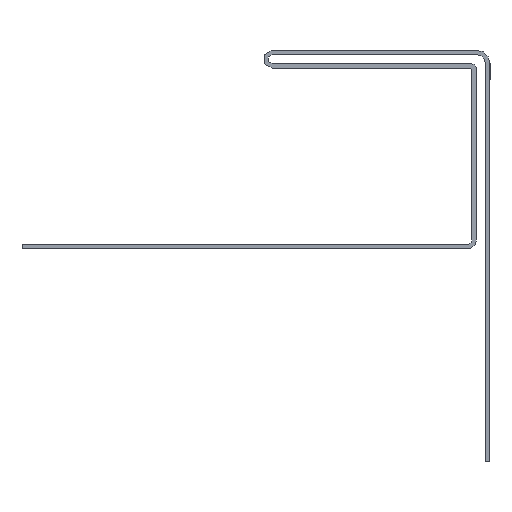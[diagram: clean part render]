
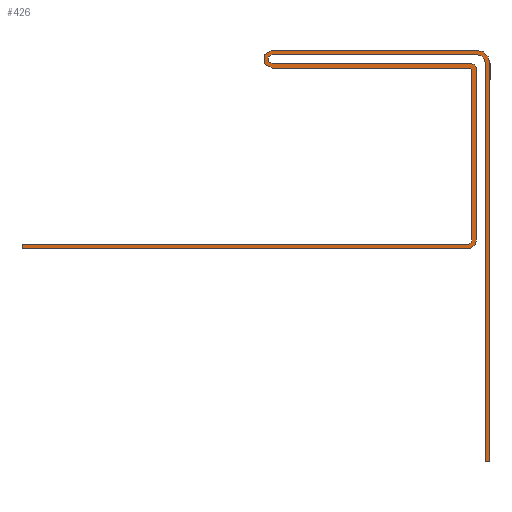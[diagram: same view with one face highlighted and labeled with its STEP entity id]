
A CAD part, left-side view. The second image highlights one B-rep face of the part: STEP entity #426.
In plain terms, the highlighted planar face has unit normal (-1, 0, 0).
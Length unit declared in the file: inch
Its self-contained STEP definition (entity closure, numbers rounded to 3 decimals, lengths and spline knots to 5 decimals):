
#28=PLANE('',#484);
#50=FACE_OUTER_BOUND('',#72,.T.);
#72=EDGE_LOOP('',(#377,#378,#379,#380,#381,#382,#383,#384,#385,#386,#387,
#388,#389,#390,#391,#392,#393,#394,#395,#396));
#75=LINE('',#619,#119);
#78=LINE('',#625,#122);
#81=LINE('',#631,#125);
#85=LINE('',#643,#129);
#89=LINE('',#655,#133);
#93=LINE('',#667,#137);
#97=LINE('',#679,#141);
#100=LINE('',#685,#144);
#103=LINE('',#691,#147);
#107=LINE('',#703,#151);
#111=LINE('',#715,#155);
#115=LINE('',#726,#159);
#119=VECTOR('',#497,0.3937);
#122=VECTOR('',#502,0.3937);
#125=VECTOR('',#507,0.3937);
#129=VECTOR('',#519,0.3937);
#133=VECTOR('',#531,0.3937);
#137=VECTOR('',#543,0.3937);
#141=VECTOR('',#555,0.3937);
#144=VECTOR('',#560,0.3937);
#147=VECTOR('',#565,0.3937);
#151=VECTOR('',#577,0.3937);
#155=VECTOR('',#589,0.3937);
#159=VECTOR('',#601,0.3937);
#161=CIRCLE('',#448,0.01937);
#163=CIRCLE('',#454,0.03937);
#165=CIRCLE('',#458,0.02);
#167=CIRCLE('',#462,0.02);
#169=CIRCLE('',#466,0.04);
#171=CIRCLE('',#472,0.06);
#173=CIRCLE('',#476,0.04);
#175=CIRCLE('',#480,0.01);
#177=VERTEX_POINT('',#609);
#178=VERTEX_POINT('',#610);
#181=VERTEX_POINT('',#618);
#183=VERTEX_POINT('',#624);
#185=VERTEX_POINT('',#630);
#187=VERTEX_POINT('',#636);
#189=VERTEX_POINT('',#642);
#191=VERTEX_POINT('',#648);
#193=VERTEX_POINT('',#654);
#195=VERTEX_POINT('',#660);
#197=VERTEX_POINT('',#666);
#199=VERTEX_POINT('',#672);
#201=VERTEX_POINT('',#678);
#203=VERTEX_POINT('',#684);
#205=VERTEX_POINT('',#690);
#207=VERTEX_POINT('',#696);
#209=VERTEX_POINT('',#702);
#211=VERTEX_POINT('',#708);
#213=VERTEX_POINT('',#714);
#215=VERTEX_POINT('',#720);
#217=EDGE_CURVE('',#177,#178,#161,.T.);
#221=EDGE_CURVE('',#181,#177,#75,.T.);
#224=EDGE_CURVE('',#183,#181,#78,.T.);
#227=EDGE_CURVE('',#185,#183,#81,.T.);
#230=EDGE_CURVE('',#187,#185,#163,.T.);
#233=EDGE_CURVE('',#189,#187,#85,.T.);
#236=EDGE_CURVE('',#191,#189,#165,.T.);
#239=EDGE_CURVE('',#193,#191,#89,.T.);
#242=EDGE_CURVE('',#195,#193,#167,.T.);
#245=EDGE_CURVE('',#197,#195,#93,.T.);
#248=EDGE_CURVE('',#199,#197,#169,.T.);
#251=EDGE_CURVE('',#201,#199,#97,.T.);
#254=EDGE_CURVE('',#203,#201,#100,.T.);
#257=EDGE_CURVE('',#205,#203,#103,.T.);
#260=EDGE_CURVE('',#207,#205,#171,.T.);
#263=EDGE_CURVE('',#209,#207,#107,.T.);
#266=EDGE_CURVE('',#211,#209,#173,.T.);
#269=EDGE_CURVE('',#213,#211,#111,.T.);
#272=EDGE_CURVE('',#215,#213,#175,.T.);
#275=EDGE_CURVE('',#178,#215,#115,.T.);
#377=ORIENTED_EDGE('',*,*,#275,.F.);
#378=ORIENTED_EDGE('',*,*,#217,.F.);
#379=ORIENTED_EDGE('',*,*,#221,.F.);
#380=ORIENTED_EDGE('',*,*,#224,.F.);
#381=ORIENTED_EDGE('',*,*,#227,.F.);
#382=ORIENTED_EDGE('',*,*,#230,.F.);
#383=ORIENTED_EDGE('',*,*,#233,.F.);
#384=ORIENTED_EDGE('',*,*,#236,.F.);
#385=ORIENTED_EDGE('',*,*,#239,.F.);
#386=ORIENTED_EDGE('',*,*,#242,.F.);
#387=ORIENTED_EDGE('',*,*,#245,.F.);
#388=ORIENTED_EDGE('',*,*,#248,.F.);
#389=ORIENTED_EDGE('',*,*,#251,.F.);
#390=ORIENTED_EDGE('',*,*,#254,.F.);
#391=ORIENTED_EDGE('',*,*,#257,.F.);
#392=ORIENTED_EDGE('',*,*,#260,.F.);
#393=ORIENTED_EDGE('',*,*,#263,.F.);
#394=ORIENTED_EDGE('',*,*,#266,.F.);
#395=ORIENTED_EDGE('',*,*,#269,.F.);
#396=ORIENTED_EDGE('',*,*,#272,.F.);
#426=ADVANCED_FACE('',(#50),#28,.F.);
#448=AXIS2_PLACEMENT_3D('',#611,#489,#490);
#454=AXIS2_PLACEMENT_3D('',#637,#512,#513);
#458=AXIS2_PLACEMENT_3D('',#649,#524,#525);
#462=AXIS2_PLACEMENT_3D('',#661,#536,#537);
#466=AXIS2_PLACEMENT_3D('',#673,#548,#549);
#472=AXIS2_PLACEMENT_3D('',#697,#570,#571);
#476=AXIS2_PLACEMENT_3D('',#709,#582,#583);
#480=AXIS2_PLACEMENT_3D('',#721,#594,#595);
#484=AXIS2_PLACEMENT_3D('',#729,#605,#606);
#489=DIRECTION('center_axis',(-1.,0.,0.));
#490=DIRECTION('ref_axis',(0.,1.,0.));
#497=DIRECTION('',(0.,-1.,0.));
#502=DIRECTION('',(0.,0.,1.));
#507=DIRECTION('',(0.,1.,0.));
#512=DIRECTION('center_axis',(1.,0.,0.));
#513=DIRECTION('ref_axis',(0.,-1.,0.));
#519=DIRECTION('',(0.,0.,-1.));
#524=DIRECTION('center_axis',(1.,0.,0.));
#525=DIRECTION('ref_axis',(0.,0.,1.));
#531=DIRECTION('',(0.,-1.,0.));
#536=DIRECTION('center_axis',(-1.,0.,0.));
#537=DIRECTION('ref_axis',(0.,0.,1.));
#543=DIRECTION('',(0.,1.,0.));
#548=DIRECTION('center_axis',(-1.,0.,0.));
#549=DIRECTION('ref_axis',(0.,0.,-1.));
#555=DIRECTION('',(0.,0.,1.));
#560=DIRECTION('',(0.,1.,0.));
#565=DIRECTION('',(0.,0.,-1.));
#570=DIRECTION('center_axis',(1.,0.,0.));
#571=DIRECTION('ref_axis',(0.,0.,1.));
#577=DIRECTION('',(0.,-1.,0.));
#582=DIRECTION('center_axis',(1.,0.,0.));
#583=DIRECTION('ref_axis',(0.,0.,-1.));
#589=DIRECTION('',(0.,1.,0.));
#594=DIRECTION('center_axis',(-1.,0.,0.));
#595=DIRECTION('ref_axis',(0.,0.,-1.));
#601=DIRECTION('',(0.,0.,1.));
#605=DIRECTION('center_axis',(1.,0.,0.));
#606=DIRECTION('ref_axis',(0.,0.,-1.));
#609=CARTESIAN_POINT('',(0.,0.13395,-0.88632));
#610=CARTESIAN_POINT('',(0.,0.11458,-0.86695));
#611=CARTESIAN_POINT('Origin',(0.,0.13395,-0.86695));
#618=CARTESIAN_POINT('',(0.,2.09458,-0.88632));
#619=CARTESIAN_POINT('',(0.,2.09458,-0.88632));
#624=CARTESIAN_POINT('',(0.,2.09458,-0.90632));
#625=CARTESIAN_POINT('',(0.,2.09458,-0.90632));
#630=CARTESIAN_POINT('',(0.,0.13395,-0.90632));
#631=CARTESIAN_POINT('',(0.,0.13395,-0.90632));
#636=CARTESIAN_POINT('',(0.,0.09458,-0.86695));
#637=CARTESIAN_POINT('Origin',(0.,0.13395,-0.86695));
#642=CARTESIAN_POINT('',(0.,0.09458,-0.11132));
#643=CARTESIAN_POINT('',(0.,0.09458,-0.11132));
#648=CARTESIAN_POINT('',(0.,0.11458,-0.09132));
#649=CARTESIAN_POINT('Origin',(0.,0.11458,-0.11132));
#654=CARTESIAN_POINT('',(0.,0.99328,-0.09132));
#655=CARTESIAN_POINT('',(0.,0.99328,-0.09132));
#660=CARTESIAN_POINT('',(0.,0.99328,-0.05132));
#661=CARTESIAN_POINT('Origin',(0.,0.99328,-0.07132));
#666=CARTESIAN_POINT('',(0.,0.09458,-0.05132));
#667=CARTESIAN_POINT('',(0.,0.09458,-0.05132));
#672=CARTESIAN_POINT('',(0.,0.05458,-0.09132));
#673=CARTESIAN_POINT('Origin',(0.,0.09458,-0.09132));
#678=CARTESIAN_POINT('',(0.,0.05458,-1.84382));
#679=CARTESIAN_POINT('',(0.,0.05458,-1.84382));
#684=CARTESIAN_POINT('',(0.,0.03458,-1.84382));
#685=CARTESIAN_POINT('',(0.,0.03458,-1.84382));
#690=CARTESIAN_POINT('',(0.,0.03458,-0.09132));
#691=CARTESIAN_POINT('',(0.,0.03458,-0.09132));
#696=CARTESIAN_POINT('',(0.,0.09458,-0.03132));
#697=CARTESIAN_POINT('Origin',(0.,0.09458,-0.09132));
#702=CARTESIAN_POINT('',(0.,0.99328,-0.03132));
#703=CARTESIAN_POINT('',(0.,0.99328,-0.03132));
#708=CARTESIAN_POINT('',(0.,0.99328,-0.11132));
#709=CARTESIAN_POINT('Origin',(0.,0.99328,-0.07132));
#714=CARTESIAN_POINT('',(0.,0.12456,-0.11132));
#715=CARTESIAN_POINT('',(0.,0.12456,-0.11132));
#720=CARTESIAN_POINT('',(0.,0.11458,-0.12075));
#721=CARTESIAN_POINT('Origin',(0.,0.12456,-0.12132));
#726=CARTESIAN_POINT('',(0.,0.11458,-0.86695));
#729=CARTESIAN_POINT('Origin',(0.,1.06458,-0.93757));
